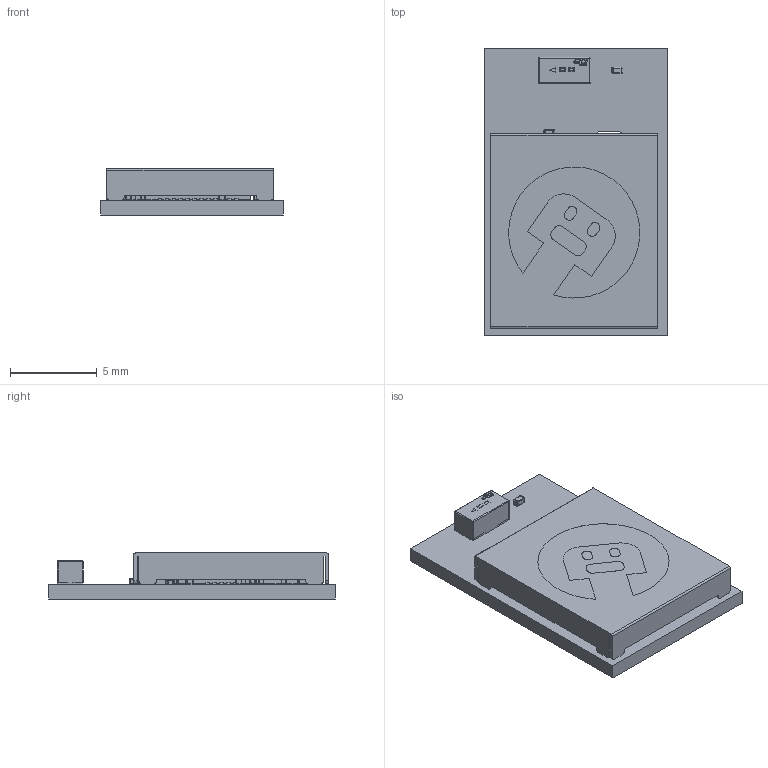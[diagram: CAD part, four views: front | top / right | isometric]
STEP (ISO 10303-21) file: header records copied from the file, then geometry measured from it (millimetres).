
FILE_DESCRIPTION (( 'STEP AP214' ), '1' );
FILE_NAME ('NCRB54N01VC.STEP', '2026-05-02T01:09:33', ( '' ), ( '' ), 'SwSTEP 2.0', 'SolidWorks 2025', '' );
FILE_SCHEMA (( 'AUTOMOTIVE_DESIGN' ));
Length unit declared in the file: millimetre
Products named in the file (1): NCRB54N01VC
Bounding box: 10.5 x 16.5 x 2.65 mm (x, y, z)
Volume: 220.6 mm3; surface area: 954.7 mm2
Topology: 150 solids, 150 shells, 2385 faces, 5862 edges, 3688 vertices
Faces by surface type: plane 1278, cylinder 700, bspline 207, sphere 188, torus 12
Entity records: 94465 total; most frequent: CARTESIAN_POINT 16183, ORIENTED_EDGE 11380, DIRECTION 11007, EDGE_CURVE 5690, VECTOR 3809, LINE 3809, VERTEX_POINT 3688, AXIS2_PLACEMENT_3D 3599
